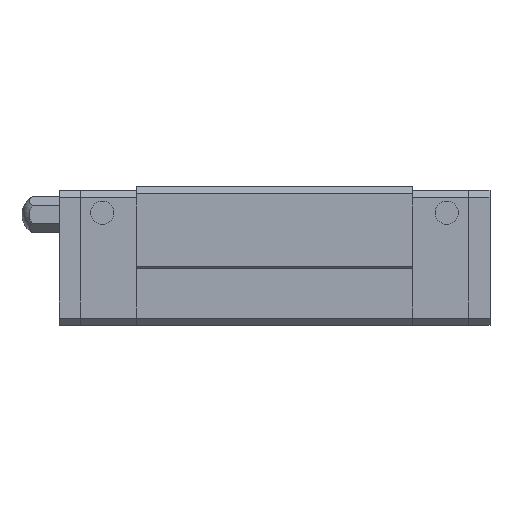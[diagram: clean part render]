
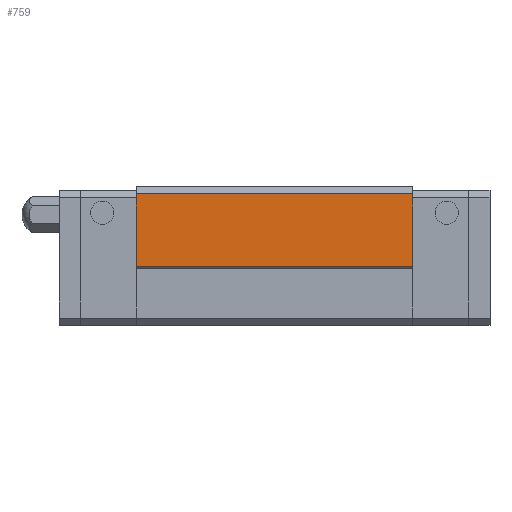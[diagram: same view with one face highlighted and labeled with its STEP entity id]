
A CAD part, front view. The second image highlights one B-rep face of the part: STEP entity #759.
In plain terms, the highlighted planar face has unit normal (0, -1, 0).
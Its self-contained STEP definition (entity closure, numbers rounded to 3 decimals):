
#698=CARTESIAN_POINT('POINT44',(50.4,-17.,
   8.35));
#699=VERTEX_POINT('VERTEX44',#698);
#706=CARTESIAN_POINT('POINT45',(11.,-17.,
   8.35));
#707=VERTEX_POINT('VERTEX45',#706);
#708=CARTESIAN_POINT('POS73',(11.,-17.,
   8.35));
#709=DIRECTION('DIR108',(1.,0.,0.));
#710=VECTOR('VEC38',#709,1.);
#711=LINE('STRAIGHT38',#708,#710);
#712=EDGE_CURVE('EDGE70',#707,#699,#711,.T.);
#729=CARTESIAN_POINT('POINT46',(50.4,-17.,
   18.7));
#730=VERTEX_POINT('VERTEX46',#729);
#731=CARTESIAN_POINT('POS76',(50.4,-17.,18.7
   ));
#732=DIRECTION('DIR112',(0.,0.,1.));
#733=VECTOR('VEC40',#732,1.);
#734=LINE('STRAIGHT40',#731,#733);
#735=EDGE_CURVE('EDGE72',#699,#730,#734,.T.);
#736=ORIENTED_EDGE('COEDGE127',*,*,#735,.T.);
#737=CARTESIAN_POINT('POINT47',(11.,-17.,
   18.7));
#738=VERTEX_POINT('VERTEX47',#737);
#739=CARTESIAN_POINT('POS77',(11.,-17.,18.7)
   );
#740=DIRECTION('DIR113',(1.,0.,0.));
#741=VECTOR('VEC41',#740,1.);
#742=LINE('STRAIGHT41',#739,#741);
#743=EDGE_CURVE('EDGE73',#738,#730,#742,.T.);
#744=ORIENTED_EDGE('COEDGE128',*,*,#743,.F.);
#745=CARTESIAN_POINT('POS78',(11.,-17.,18.7)
   );
#746=DIRECTION('DIR114',(0.,0.,-1.));
#747=VECTOR('VEC42',#746,1.);
#748=LINE('STRAIGHT42',#745,#747);
#749=EDGE_CURVE('EDGE74',#738,#707,#748,.T.);
#750=ORIENTED_EDGE('COEDGE129',*,*,#749,.T.);
#751=ORIENTED_EDGE('COEDGE130',*,*,#712,.T.);
#752=EDGE_LOOP('NONE',(#736,#744,#750,#751));
#753=FACE_BOUND('LOOP1',#752,.T.);
#754=CARTESIAN_POINT('POS79',(11.,-17.,
   8.35));
#755=DIRECTION('DIR115',(0.,-1.,0.));
#756=DIRECTION('DIR116',(1.,0.,0.));
#757=AXIS2_PLACEMENT_3D('AXIS37',#754,#755,#756);
#758=PLANE('PLANE8',#757);
#759=ADVANCED_FACE('FACE34',(#753),#758,.T.);
